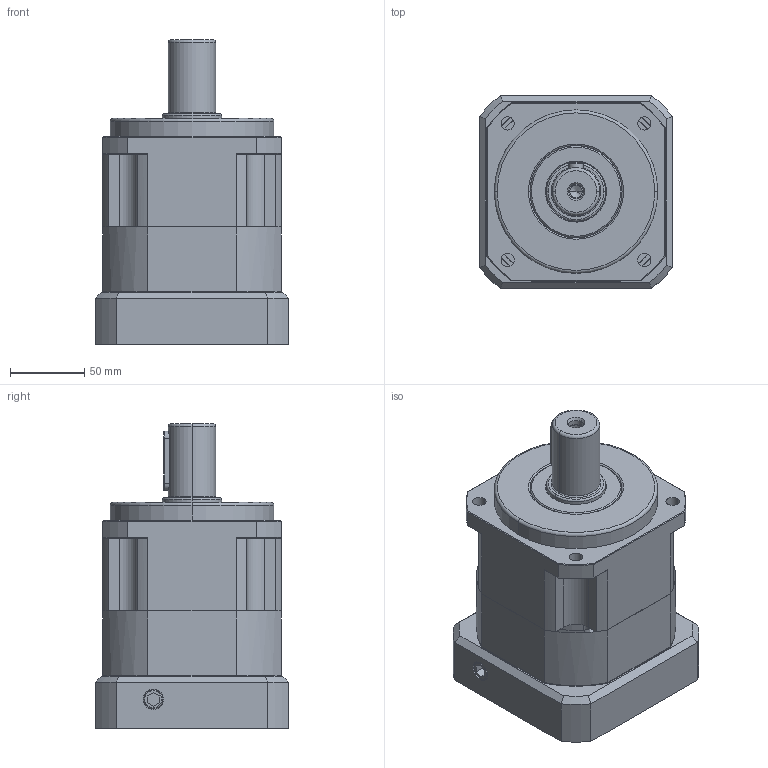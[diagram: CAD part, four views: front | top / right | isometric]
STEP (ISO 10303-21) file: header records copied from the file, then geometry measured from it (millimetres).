
FILE_DESCRIPTION (( 'STEP AP203' ), '1' );
FILE_NAME ('SB120-1-110M8.step', '2022-02-15T06:57:17', ( '' ), ( '' ), 'SwSTEP 2.0', 'SolidWorks 2020', '' );
FILE_SCHEMA (( 'CONFIG_CONTROL_DESIGN' ));
Length unit declared in the file: millimetre
Products named in the file (1): SB120-1-110M8
Bounding box: 130 x 130 x 205 mm (x, y, z)
Volume: 1532433.9 mm3; surface area: 197581.5 mm2
Topology: 2 solids, 7 shells, 702 faces, 1712 edges, 1047 vertices
Faces by surface type: cylinder 257, plane 243, cone 138, torus 36, bspline 18, sphere 10
Entity records: 21906 total; most frequent: CARTESIAN_POINT 5250, DIRECTION 3687, ORIENTED_EDGE 3338, EDGE_CURVE 1669, AXIS2_PLACEMENT_3D 1472, VERTEX_POINT 1040, EDGE_LOOP 789, CIRCLE 787
